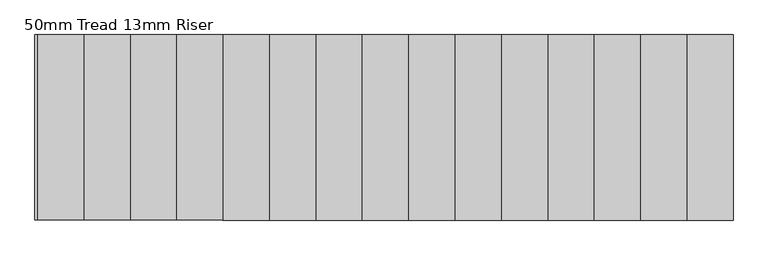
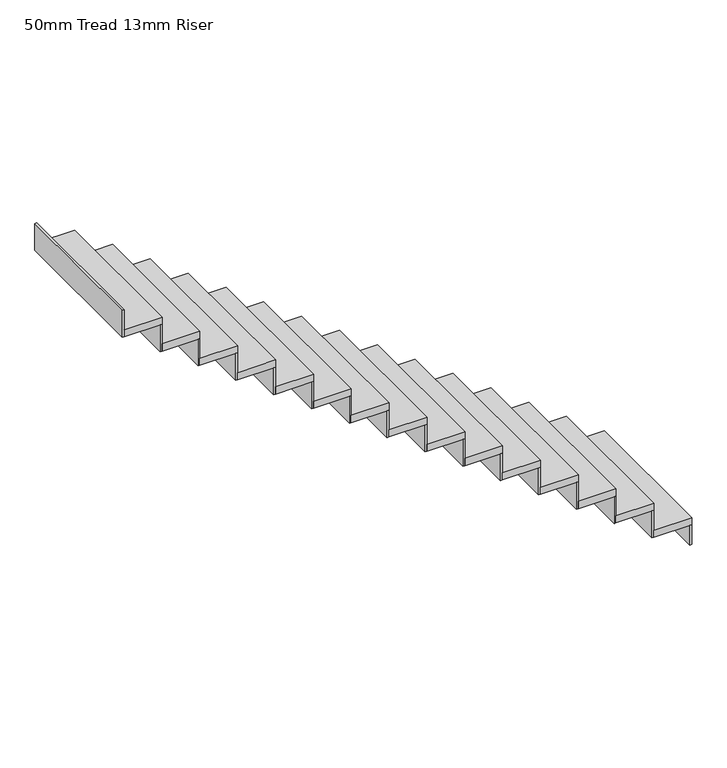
"""IFC4 building model written with IfcOpenShell, lengths in millimetres: stair flight geometry, 50mm Tread 13mm Riser."""

from ifc_helpers import new_model, si_unit, frame, origin, origin_with_axes, place, context, project, spatial, polyline, outline, extrude, source, transform, mapped, element, save


def stair_flight_50mm_tread_13mm_riser_3baf10d3(model_context):
    return source(origin(), model_context, "Body", "SweptSolid", [
        extrude(outline(polyline([(803.335182, 1310.6690392), (815.835182, 1310.6690392), (815.835182, 310.6690392), (803.335182, 310.6690392), (803.335182, 1310.6690392)])), origin_with_axes(), (0.0, 0.0, 1.0), 137.5),
        extrude(outline(polyline([(565.835182, 310.6690392), (565.835182, 1310.6690392), (815.835182, 1310.6690392), (815.835182, 310.6690392), (565.835182, 310.6690392)])), frame((0.0, 0.0, 137.5), z_axis=(0.0, 0.0, 1.0), x_axis=(1.0, 0.0, 0.0)), (0.0, 0.0, 1.0), 50.0),
        extrude(outline(polyline([(553.335182, 1310.6690392), (565.835182, 1310.6690392), (565.835182, 310.6690392), (553.335182, 310.6690392), (553.335182, 1310.6690392)])), frame((0.0, 0.0, 137.5), z_axis=(0.0, 0.0, 1.0), x_axis=(1.0, 0.0, 0.0)), (0.0, 0.0, 1.0), 187.5),
        extrude(outline(polyline([(315.835182, 310.6690392), (315.835182, 1310.6690392), (565.835182, 1310.6690392), (565.835182, 310.6690392), (315.835182, 310.6690392)])), frame((0.0, 0.0, 325.0), z_axis=(0.0, 0.0, 1.0), x_axis=(1.0, 0.0, 0.0)), (0.0, 0.0, 1.0), 50.0),
        extrude(outline(polyline([(303.335182, 1310.6690392), (315.835182, 1310.6690392), (315.835182, 310.6690392), (303.335182, 310.6690392), (303.335182, 1310.6690392)])), frame((0.0, 0.0, 325.0), z_axis=(0.0, 0.0, 1.0), x_axis=(1.0, 0.0, 0.0)), (0.0, 0.0, 1.0), 187.5),
        extrude(outline(polyline([(65.835182, 310.6690392), (65.835182, 1310.6690392), (315.835182, 1310.6690392), (315.835182, 310.6690392), (65.835182, 310.6690392)])), frame((0.0, 0.0, 512.5), z_axis=(0.0, 0.0, 1.0), x_axis=(1.0, 0.0, 0.0)), (0.0, 0.0, 1.0), 50.0),
        extrude(outline(polyline([(53.335182, 1310.6690392), (65.835182, 1310.6690392), (65.835182, 310.6690392), (53.335182, 310.6690392), (53.335182, 1310.6690392)])), frame((0.0, 0.0, 512.5), z_axis=(0.0, 0.0, 1.0), x_axis=(1.0, 0.0, 0.0)), (0.0, 0.0, 1.0), 187.5),
        extrude(outline(polyline([(-184.164818, 310.6690392), (-184.164818, 1310.6690392), (65.835182, 1310.6690392), (65.835182, 310.6690392), (-184.164818, 310.6690392)])), frame((0.0, 0.0, 700.0), z_axis=(0.0, 0.0, 1.0), x_axis=(1.0, 0.0, 0.0)), (0.0, 0.0, 1.0), 50.0),
        extrude(outline(polyline([(-196.664818, 1310.6690392), (-184.164818, 1310.6690392), (-184.164818, 310.6690392), (-196.664818, 310.6690392), (-196.664818, 1310.6690392)])), frame((0.0, 0.0, 700.0), z_axis=(0.0, 0.0, 1.0), x_axis=(1.0, 0.0, 0.0)), (0.0, 0.0, 1.0), 187.5),
        extrude(outline(polyline([(-434.164818, 310.6690392), (-434.164818, 1310.6690392), (-184.164818, 1310.6690392), (-184.164818, 310.6690392), (-434.164818, 310.6690392)])), frame((0.0, 0.0, 887.5), z_axis=(0.0, 0.0, 1.0), x_axis=(1.0, 0.0, 0.0)), (0.0, 0.0, 1.0), 50.0),
        extrude(outline(polyline([(-446.664818, 1310.6690392), (-434.164818, 1310.6690392), (-434.164818, 310.6690392), (-446.664818, 310.6690392), (-446.664818, 1310.6690392)])), frame((0.0, 0.0, 887.5), z_axis=(0.0, 0.0, 1.0), x_axis=(1.0, 0.0, 0.0)), (0.0, 0.0, 1.0), 187.5),
        extrude(outline(polyline([(-684.164818, 310.6690392), (-684.164818, 1310.6690392), (-434.164818, 1310.6690392), (-434.164818, 310.6690392), (-684.164818, 310.6690392)])), frame((0.0, 0.0, 1075.0), z_axis=(0.0, 0.0, 1.0), x_axis=(1.0, 0.0, 0.0)), (0.0, 0.0, 1.0), 50.0),
        extrude(outline(polyline([(-696.664818, 1310.6690392), (-684.164818, 1310.6690392), (-684.164818, 310.6690392), (-696.664818, 310.6690392), (-696.664818, 1310.6690392)])), frame((0.0, 0.0, 1075.0), z_axis=(0.0, 0.0, 1.0), x_axis=(1.0, 0.0, 0.0)), (0.0, 0.0, 1.0), 187.5),
        extrude(outline(polyline([(-934.164818, 310.6690392), (-934.164818, 1310.6690392), (-684.164818, 1310.6690392), (-684.164818, 310.6690392), (-934.164818, 310.6690392)])), frame((0.0, 0.0, 1262.5), z_axis=(0.0, 0.0, 1.0), x_axis=(1.0, 0.0, 0.0)), (0.0, 0.0, 1.0), 50.0),
        extrude(outline(polyline([(-946.664818, 1310.6690392), (-934.164818, 1310.6690392), (-934.164818, 310.6690392), (-946.664818, 310.6690392), (-946.664818, 1310.6690392)])), frame((0.0, 0.0, 1262.5), z_axis=(0.0, 0.0, 1.0), x_axis=(1.0, 0.0, 0.0)), (0.0, 0.0, 1.0), 187.5),
        extrude(outline(polyline([(-1184.164818, 310.6690392), (-1184.164818, 1310.6690392), (-934.164818, 1310.6690392), (-934.164818, 310.6690392), (-1184.164818, 310.6690392)])), frame((0.0, 0.0, 1450.0), z_axis=(0.0, 0.0, 1.0), x_axis=(1.0, 0.0, 0.0)), (0.0, 0.0, 1.0), 50.0),
        extrude(outline(polyline([(-1196.664818, 1310.6690392), (-1184.164818, 1310.6690392), (-1184.164818, 310.6690392), (-1196.664818, 310.6690392), (-1196.664818, 1310.6690392)])), frame((0.0, 0.0, 1450.0), z_axis=(0.0, 0.0, 1.0), x_axis=(1.0, 0.0, 0.0)), (0.0, 0.0, 1.0), 187.5),
        extrude(outline(polyline([(-1434.164818, 310.6690392), (-1434.164818, 1310.6690392), (-1184.164818, 1310.6690392), (-1184.164818, 310.6690392), (-1434.164818, 310.6690392)])), frame((0.0, 0.0, 1637.5), z_axis=(0.0, 0.0, 1.0), x_axis=(1.0, 0.0, 0.0)), (0.0, 0.0, 1.0), 50.0),
        extrude(outline(polyline([(-1446.664818, 1310.6690392), (-1434.164818, 1310.6690392), (-1434.164818, 310.6690392), (-1446.664818, 310.6690392), (-1446.664818, 1310.6690392)])), frame((0.0, 0.0, 1637.5), z_axis=(0.0, 0.0, 1.0), x_axis=(1.0, 0.0, 0.0)), (0.0, 0.0, 1.0), 187.5),
        extrude(outline(polyline([(-1684.164818, 310.6690392), (-1684.164818, 1310.6690392), (-1434.164818, 1310.6690392), (-1434.164818, 310.6690392), (-1684.164818, 310.6690392)])), frame((0.0, 0.0, 1825.0), z_axis=(0.0, 0.0, 1.0), x_axis=(1.0, 0.0, 0.0)), (0.0, 0.0, 1.0), 50.0),
        extrude(outline(polyline([(-1696.664818, 1310.6690392), (-1684.164818, 1310.6690392), (-1684.164818, 310.6690392), (-1696.664818, 310.6690392), (-1696.664818, 1310.6690392)])), frame((0.0, 0.0, 1825.0), z_axis=(0.0, 0.0, 1.0), x_axis=(1.0, 0.0, 0.0)), (0.0, 0.0, 1.0), 187.5),
        extrude(outline(polyline([(-1934.164818, 310.6690392), (-1934.164818, 1310.6690392), (-1684.164818, 1310.6690392), (-1684.164818, 310.6690392), (-1934.164818, 310.6690392)])), frame((0.0, 0.0, 2012.5), z_axis=(0.0, 0.0, 1.0), x_axis=(1.0, 0.0, 0.0)), (0.0, 0.0, 1.0), 50.0),
        extrude(outline(polyline([(-1946.664818, 1310.6690392), (-1934.164818, 1310.6690392), (-1934.164818, 310.6690392), (-1946.664818, 310.6690392), (-1946.664818, 1310.6690392)])), frame((0.0, 0.0, 2012.5), z_axis=(0.0, 0.0, 1.0), x_axis=(1.0, 0.0, 0.0)), (0.0, 0.0, 1.0), 187.5),
        extrude(outline(polyline([(-2184.164818, 310.6690392), (-2184.164818, 1310.6690392), (-1934.164818, 1310.6690392), (-1934.164818, 310.6690392), (-2184.164818, 310.6690392)])), frame((0.0, 0.0, 2200.0), z_axis=(0.0, 0.0, 1.0), x_axis=(1.0, 0.0, 0.0)), (0.0, 0.0, 1.0), 50.0),
        extrude(outline(polyline([(-2196.664818, 1310.6690392), (-2184.164818, 1310.6690392), (-2184.164818, 310.6690392), (-2196.664818, 310.6690392), (-2196.664818, 1310.6690392)])), frame((0.0, 0.0, 2200.0), z_axis=(0.0, 0.0, 1.0), x_axis=(1.0, 0.0, 0.0)), (0.0, 0.0, 1.0), 187.5),
        extrude(outline(polyline([(-2434.164818, 310.6690392), (-2434.164818, 1310.6690392), (-2184.164818, 1310.6690392), (-2184.164818, 310.6690392), (-2434.164818, 310.6690392)])), frame((0.0, 0.0, 2387.5), z_axis=(0.0, 0.0, 1.0), x_axis=(1.0, 0.0, 0.0)), (0.0, 0.0, 1.0), 50.0),
        extrude(outline(polyline([(-2446.664818, 1310.6690392), (-2434.164818, 1310.6690392), (-2434.164818, 310.6690392), (-2446.664818, 310.6690392), (-2446.664818, 1310.6690392)])), frame((0.0, 0.0, 2387.5), z_axis=(0.0, 0.0, 1.0), x_axis=(1.0, 0.0, 0.0)), (0.0, 0.0, 1.0), 187.5),
        extrude(outline(polyline([(-2684.164818, 310.6690392), (-2684.164818, 1310.6690392), (-2434.164818, 1310.6690392), (-2434.164818, 310.6690392), (-2684.164818, 310.6690392)])), frame((0.0, 0.0, 2575.0), z_axis=(0.0, 0.0, 1.0), x_axis=(1.0, 0.0, 0.0)), (0.0, 0.0, 1.0), 50.0),
        extrude(outline(polyline([(-2696.664818, 1310.6690392), (-2684.164818, 1310.6690392), (-2684.164818, 310.6690392), (-2696.664818, 310.6690392), (-2696.664818, 1310.6690392)])), frame((0.0, 0.0, 2575.0), z_axis=(0.0, 0.0, 1.0), x_axis=(1.0, 0.0, 0.0)), (0.0, 0.0, 1.0), 187.5),
        extrude(outline(polyline([(-2946.664818, 1310.6690392), (-2934.164818, 1310.6690392), (-2934.164818, 310.6690392), (-2946.664818, 310.6690392), (-2946.664818, 1310.6690392)])), frame((0.0, 0.0, 2762.5), z_axis=(0.0, 0.0, 1.0), x_axis=(1.0, 0.0, 0.0)), (0.0, 0.0, 1.0), 187.5),
        extrude(outline(polyline([(-2934.164818, 310.6690392), (-2934.164818, 1310.6690392), (-2684.164818, 1310.6690392), (-2684.164818, 310.6690392), (-2934.164818, 310.6690392)])), frame((0.0, 0.0, 2762.5), z_axis=(0.0, 0.0, 1.0), x_axis=(1.0, 0.0, 0.0)), (0.0, 0.0, 1.0), 50.0),
    ])


if __name__ == "__main__":
    model = new_model("IFC4")
    model_context = context("Model", 3, world=origin())
    ifc_project = project(units=[si_unit("LENGTHUNIT", "METRE", prefix="MILLI")], contexts=[model_context])
    site = spatial("IfcSite", under=ifc_project)
    building = spatial("IfcBuilding", under=site)
    placement = place(None, origin())
    stair_flight_50mm_tread_13mm_riser_shape = stair_flight_50mm_tread_13mm_riser_3baf10d3(model_context)
    element("IfcStairFlight", 1, ObjectType="50mm Tread 13mm Riser", at=placement, inside=building, context=model_context, shape_type="MappedRepresentation", body=[
        mapped(stair_flight_50mm_tread_13mm_riser_shape, transform((0.0, 0.0, 0.0), x_axis=(1.0, 0.0, 0.0), y_axis=(0.0, 1.0, 0.0), z_axis=(0.0, 0.0, 1.0))),
    ])
    save(model, "model.ifc")
